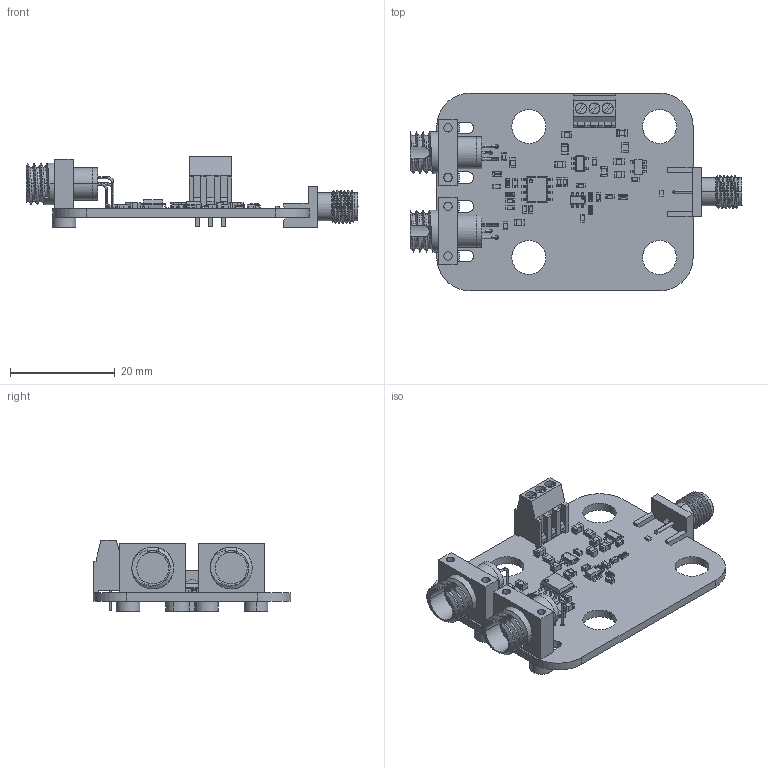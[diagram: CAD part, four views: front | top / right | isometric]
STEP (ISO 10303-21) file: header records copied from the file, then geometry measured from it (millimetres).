
FILE_DESCRIPTION (( 'STEP AP214' ), '1' );
FILE_NAME ('PD100B_V2.1.STEP', '2018-12-10T15:33:49', ( '' ), ( '' ), 'SwSTEP 2.0', 'SolidWorks 2015', '' );
FILE_SCHEMA (( 'AUTOMOTIVE_DESIGN' ));
Length unit declared in the file: millimetre
Products named in the file (64): PD100B_V2_1_31; PD100B_V2_1_14; PD100B_V2_1_21; 343_M2x5_socket-cap-screw; PD100B_V2_1_28; PD100B_V2_8; PD100B_V2_1_4; PD100B_V2_1_20; PD100B_V2_1_3; PD100B_V2_1_29; PD100B_V2; PD100B_V2_1_42; PD100B_V2_1_7; PD100B_V2_1_16; PD100B_V2_6; PD100B_V2_1_17; PD100B_V2_1_44; PD100B_V2_1_22; PD100B_V2_1_6; PD100B_V2_16; PD100B_V2_10; PD100B_V2_1_5; PD100B_V2_13; PD100B_V2_1_23; PD100B_V2_1_30; PD100B_V2_1_25; PD100B_V2_1_8; PD100B_V2_3; PD100B_V2_14; PD100B_V2_5; PD100B_V2_1_41; PD100B_V2_1; PD100B_V2_1_43; PD100B_V2_1_24; PD100B_V2_1_18; PD100B_V2_1_37; PD100B_V2_1_11; PD100B_V2_1_34; PD100B_V2_1_19; PD100B_V2_1_38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
Assembly tree (96 placements, depth 5):
  PD100B_V2.1
    PD100B_V2
      PD100B_V2
      PD100B_V2_1
        PD100B_V2_1_2
          PD100B_V2_2
      PD100B_V2_1_3
        PD100B_V2_1_4
          PD100B_V2_3
          PD100B_V2_4
      PD100B_V2_1_5
        PD100B_V2_1_4
          PD100B_V2_3
          PD100B_V2_4
      PD100B_V2_1_6
        PD100B_V2_5
      PD100B_V2_1_7
        PD100B_V2_1_8
          PD100B_V2_6
          PD100B_V2_7
      PD100B_V2_1_9
        PD100B_V2_1_8
          PD100B_V2_6
          PD100B_V2_7
      PD100B_V2_1_10
        PD100B_V2_8
      PD100B_V2_1_11
        PD100B_V2_9
      PD100B_V2_1_12
        PD100B_V2_10
      PD100B_V2_1_13
        PD100B_V2_10
      PD100B_V2_1_14
        PD100B_V2_10
      PD100B_V2_1_15
        PD100B_V2_11
      PD100B_V2_1_16
        PD100B_V2_12
      PD100B_V2_1_17
        PD100B_V2_12
      PD100B_V2_1_18
        PD100B_V2_10
      PD100B_V2_1_19
        PD100B_V2_11
      PD100B_V2_1_20
        PD100B_V2_11
      PD100B_V2_1_21
        PD100B_V2_12
      PD100B_V2_1_22
        PD100B_V2_12
      PD100B_V2_1_23
        PD100B_V2_12
      PD100B_V2_1_24
        PD100B_V2_1_25
          PD100B_V2_13
          PD100B_V2_14  x2
      PD100B_V2_1_26
        PD100B_V2_10
      PD100B_V2_1_27
        PD100B_V2_12
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Bounding box: 63.47 x 37.8 x 13.64 mm (x, y, z)
Volume: 4879.3 mm3; surface area: 7797.8 mm2
Topology: 76 solids, 94 shells, 3022 faces, 7409 edges, 4372 vertices
Faces by surface type: plane 1260, cylinder 1086, bspline 648, torus 16, cone 12
Entity records: 52498 total; most frequent: CARTESIAN_POINT 13742, ORIENTED_EDGE 5370, DIRECTION 5232, EDGE_CURVE 2695, AXIS2_PLACEMENT_3D 1770, LINE 1692, VECTOR 1692, VERTEX_POINT 1681
